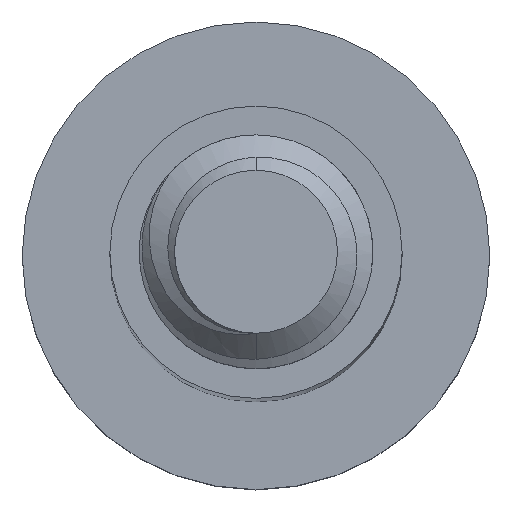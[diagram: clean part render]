
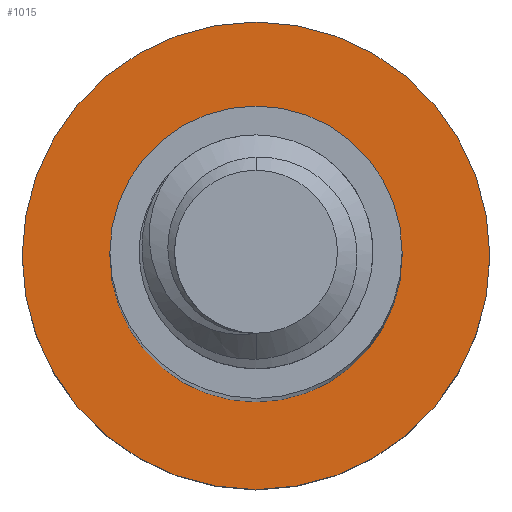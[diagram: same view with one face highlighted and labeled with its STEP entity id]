
A CAD part, top view. The second image highlights one B-rep face of the part: STEP entity #1015.
In plain terms, the highlighted planar face has unit normal (0, 0, 1).
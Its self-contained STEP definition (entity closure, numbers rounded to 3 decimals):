
#69 = ORIENTED_EDGE ( 'NONE', *, *, #1788, .F. ) ;
#81 = EDGE_LOOP ( 'NONE', ( #69, #811 ) ) ;
#110 = DIRECTION ( 'NONE',  ( -1., 0., 0. ) ) ;
#117 = DIRECTION ( 'NONE',  ( 0., 0., -1. ) ) ;
#157 = DIRECTION ( 'NONE',  ( 0., 0., -1. ) ) ;
#159 = VERTEX_POINT ( 'NONE', #539 ) ;
#170 = ORIENTED_EDGE ( 'NONE', *, *, #482, .T. ) ;
#181 = DIRECTION ( 'NONE',  ( -1., 0., 0. ) ) ;
#246 = CIRCLE ( 'NONE', #671, 2.5 ) ;
#356 = CARTESIAN_POINT ( 'NONE',  ( 0., 0., -35. ) ) ;
#440 = VERTEX_POINT ( 'NONE', #1963 ) ;
#475 = EDGE_LOOP ( 'NONE', ( #1010, #170 ) ) ;
#482 = EDGE_CURVE ( 'NONE', #1558, #159, #1896, .T. ) ;
#539 = CARTESIAN_POINT ( 'NONE',  ( -2.5, 0., -35. ) ) ;
#544 = CARTESIAN_POINT ( 'NONE',  ( 2.5, 0., -35. ) ) ;
#662 = VERTEX_POINT ( 'NONE', #1811 ) ;
#671 = AXIS2_PLACEMENT_3D ( 'NONE', #1658, #157, #1491 ) ;
#682 = CARTESIAN_POINT ( 'NONE',  ( 0., 0., -35. ) ) ;
#692 = DIRECTION ( 'NONE',  ( 0., 0., -1. ) ) ;
#777 = CARTESIAN_POINT ( 'NONE',  ( 0., 0., -35. ) ) ;
#811 = ORIENTED_EDGE ( 'NONE', *, *, #956, .F. ) ;
#898 = AXIS2_PLACEMENT_3D ( 'NONE', #356, #984, #1159 ) ;
#901 = CIRCLE ( 'NONE', #1374, 4. ) ;
#925 = DIRECTION ( 'NONE',  ( -1., 0., 0. ) ) ;
#956 = EDGE_CURVE ( 'NONE', #440, #662, #1334, .T. ) ;
#984 = DIRECTION ( 'NONE',  ( 0., 0., -1. ) ) ;
#1010 = ORIENTED_EDGE ( 'NONE', *, *, #1017, .T. ) ;
#1015 = ADVANCED_FACE ( 'NONE', ( #1351, #1181 ), #1853, .F. ) ;
#1017 = EDGE_CURVE ( 'NONE', #159, #1558, #246, .T. ) ;
#1159 = DIRECTION ( 'NONE',  ( -1., 0., 0. ) ) ;
#1181 = FACE_OUTER_BOUND ( 'NONE', #81, .T. ) ;
#1334 = CIRCLE ( 'NONE', #1753, 4. ) ;
#1351 = FACE_BOUND ( 'NONE', #475, .T. ) ;
#1374 = AXIS2_PLACEMENT_3D ( 'NONE', #1632, #117, #925 ) ;
#1486 = DIRECTION ( 'NONE',  ( 0., 0., -1. ) ) ;
#1491 = DIRECTION ( 'NONE',  ( -1., 0., 0. ) ) ;
#1558 = VERTEX_POINT ( 'NONE', #544 ) ;
#1632 = CARTESIAN_POINT ( 'NONE',  ( 0., 0., -35. ) ) ;
#1658 = CARTESIAN_POINT ( 'NONE',  ( 0., 0., -35. ) ) ;
#1727 = AXIS2_PLACEMENT_3D ( 'NONE', #777, #1486, #110 ) ;
#1753 = AXIS2_PLACEMENT_3D ( 'NONE', #682, #692, #181 ) ;
#1788 = EDGE_CURVE ( 'NONE', #662, #440, #901, .T. ) ;
#1811 = CARTESIAN_POINT ( 'NONE',  ( 4., 0., -35. ) ) ;
#1853 = PLANE ( 'NONE',  #898 ) ;
#1896 = CIRCLE ( 'NONE', #1727, 2.5 ) ;
#1963 = CARTESIAN_POINT ( 'NONE',  ( -4., 0., -35. ) ) ;
